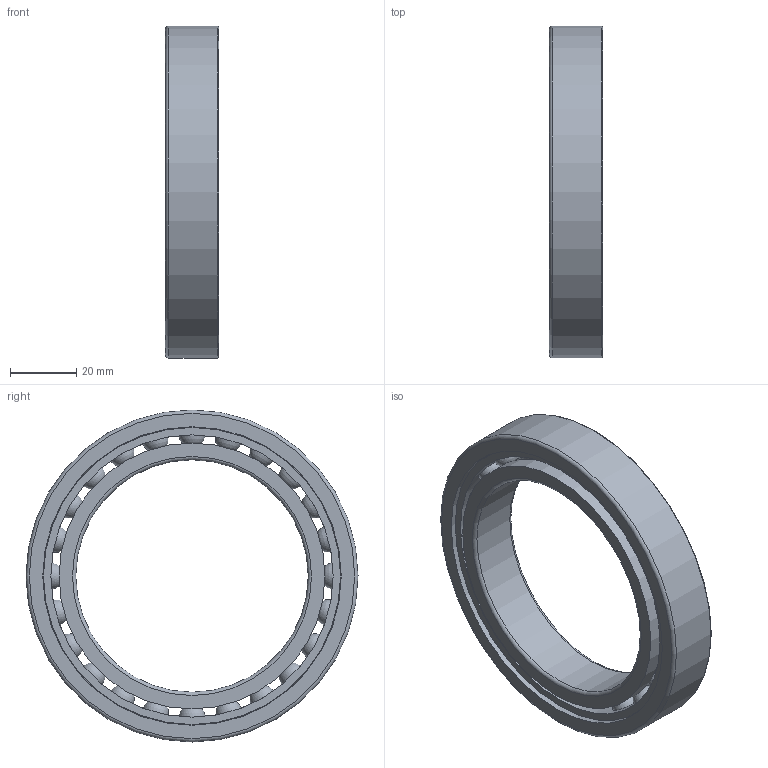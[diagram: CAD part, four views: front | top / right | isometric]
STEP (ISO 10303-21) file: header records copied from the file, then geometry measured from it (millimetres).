
FILE_DESCRIPTION(/* description */ (''),/* implementation_level */ '2;1');
FILE_NAME(/* name */ 'S_61914_TA.step',/* time_stamp */ '2013-03-06T14:48:44+01:00',/* author */ ('Marian'),/* organization */ ('GMN'),/* preprocessor_version */ 'ST-DEVELOPER v11',/* originating_system */ 'SIEMENS UGS NX 6.0',/* authorisation */ '');
FILE_SCHEMA (('CONFIG_CONTROL_DESIGN'));
Length unit declared in the file: millimetre
Products named in the file (1): S_61914_TA
Bounding box: 16 x 100 x 100 mm (x, y, z)
Volume: 48565.7 mm3; surface area: 34133 mm2
Topology: 27 solids, 27 shells, 68 faces, 182 edges, 118 vertices
Faces by surface type: cylinder 31, sphere 24, torus 6, plane 6, cone 1
Full cylindrical faces by diameter (mm): 8.138 x24, 70 x1, 80.1 x2, 84.998 x1, 89.5 x1, 89.9 x1, 100 x1
Entity records: 4194 total; most frequent: CARTESIAN_POINT 2965, DIRECTION 178, FACE_BOUND 160, EDGE_LOOP 136, ORIENTED_EDGE 136, VERTEX_POINT 92, AXIS2_PLACEMENT_3D 89, EDGE_CURVE 68
